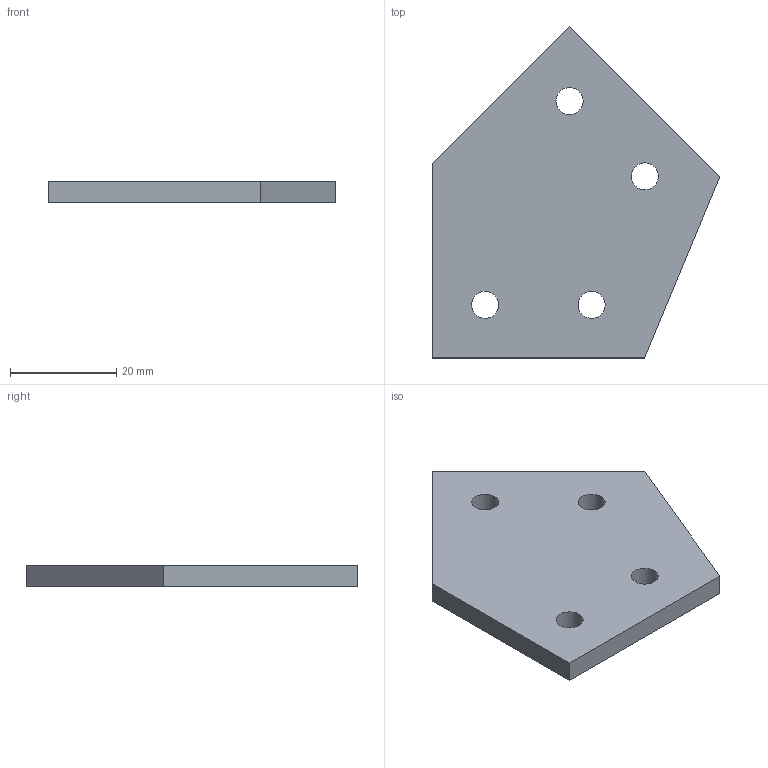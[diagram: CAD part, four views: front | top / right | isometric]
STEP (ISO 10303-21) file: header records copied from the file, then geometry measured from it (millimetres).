
FILE_DESCRIPTION(/* description */ (''),/* implementation_level */ '2;1');
FILE_NAME(/* name */ 'Plate Connector - 45 Degree - Single Slot - 20 Series - Aluminium - Black.step',/* time_stamp */ '2025-10-18T03:40:37+03:00',/* author */ (''),/* organization */ (''),/* preprocessor_version */ 'ST-DEVELOPER v20.1',/* originating_system */ 'Autodesk Translation Framework v14.17.0.0',/* authorisation */ '');
FILE_SCHEMA (('AUTOMOTIVE_DESIGN { 1 0 10303 214 3 1 1 }'));
Length unit declared in the file: millimetre
Products named in the file (1): 4-Hole-45-Degree-Joining-Plate
Bounding box: 54.14 x 62.43 x 4 mm (x, y, z)
Volume: 9289.8 mm3; surface area: 5661.6 mm2
Topology: 1 solids, 1 shells, 11 faces, 27 edges, 18 vertices
Faces by surface type: plane 7, cylinder 4
Full cylindrical faces by diameter (mm): 5.1 x4
Entity records: 385 total; most frequent: DIRECTION 59, CARTESIAN_POINT 57, ORIENTED_EDGE 54, EDGE_CURVE 27, AXIS2_PLACEMENT_3D 20, EDGE_LOOP 19, LINE 19, VECTOR 19
